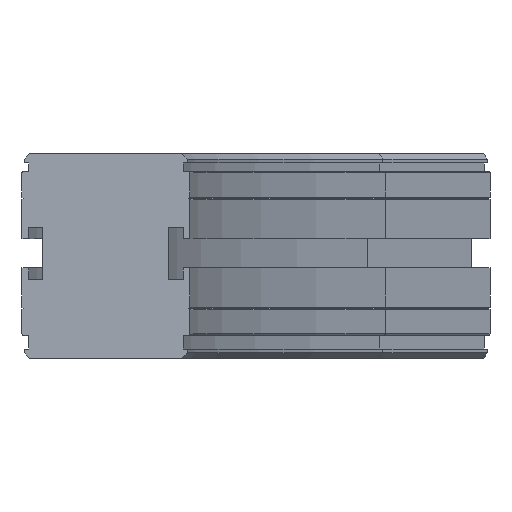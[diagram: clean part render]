
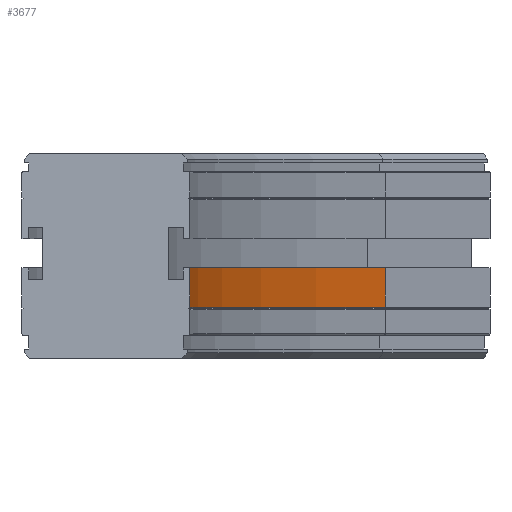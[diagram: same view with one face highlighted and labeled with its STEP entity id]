
A CAD part, left-side view. The second image highlights one B-rep face of the part: STEP entity #3677.
In plain terms, the highlighted cylindrical face has radius 557 mm (diameter 1114 mm), a partial arc.
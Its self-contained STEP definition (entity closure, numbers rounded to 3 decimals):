
#2334=CARTESIAN_POINT('',(358.5,-106.624,-58.5));
#2335=VERTEX_POINT('',#2334);
#2365=CARTESIAN_POINT('',(358.5,-106.624,-43.5));
#2366=VERTEX_POINT('',#2365);
#2373=CARTESIAN_POINT('',(358.5,-106.624,-58.5));
#2374=DIRECTION('',(0.0,0.0,1.0));
#2375=VECTOR('',#2374,15.);
#2376=LINE('',#2373,#2375);
#2377=EDGE_CURVE('',#2335,#2366,#2376,.T.);
#3634=CARTESIAN_POINT('',(80.0,-32.0,-58.5));
#3635=VERTEX_POINT('',#3634);
#3636=CARTESIAN_POINT('',(80.,-589.,-58.5));
#3637=DIRECTION('',(0.0,0.0,-1.0));
#3638=DIRECTION('',(-0.5,-0.866,0.0));
#3639=AXIS2_PLACEMENT_3D('',#3636,#3637,#3638);
#3640=CIRCLE('',#3639,557.);
#3641=EDGE_CURVE('',#3635,#2335,#3640,.T.);
#3653=CARTESIAN_POINT('',(80.,-589.,-51.));
#3654=DIRECTION('',(0.0,0.0,-1.0));
#3655=DIRECTION('',(-0.5,-0.866,0.0));
#3656=AXIS2_PLACEMENT_3D('',#3653,#3654,#3655);
#3657=CYLINDRICAL_SURFACE('',#3656,557.);
#3658=ORIENTED_EDGE('',*,*,#2377,.T.);
#3659=CARTESIAN_POINT('',(80.0,-32.0,-43.5));
#3660=VERTEX_POINT('',#3659);
#3661=CARTESIAN_POINT('',(80.,-589.,-43.5));
#3662=DIRECTION('',(0.0,0.0,-1.0));
#3663=DIRECTION('',(-0.5,-0.866,0.0));
#3664=AXIS2_PLACEMENT_3D('',#3661,#3662,#3663);
#3665=CIRCLE('',#3664,557.);
#3666=EDGE_CURVE('',#3660,#2366,#3665,.T.);
#3667=ORIENTED_EDGE('',*,*,#3666,.F.);
#3668=CARTESIAN_POINT('',(80.0,-32.0,-58.5));
#3669=DIRECTION('',(0.0,0.0,1.0));
#3670=VECTOR('',#3669,15.);
#3671=LINE('',#3668,#3670);
#3672=EDGE_CURVE('',#3635,#3660,#3671,.T.);
#3673=ORIENTED_EDGE('',*,*,#3672,.F.);
#3674=ORIENTED_EDGE('',*,*,#3641,.T.);
#3675=EDGE_LOOP('',(#3658,#3667,#3673,#3674));
#3676=FACE_OUTER_BOUND('',#3675,.T.);
#3677=ADVANCED_FACE('',(#3676),#3657,.F.);
